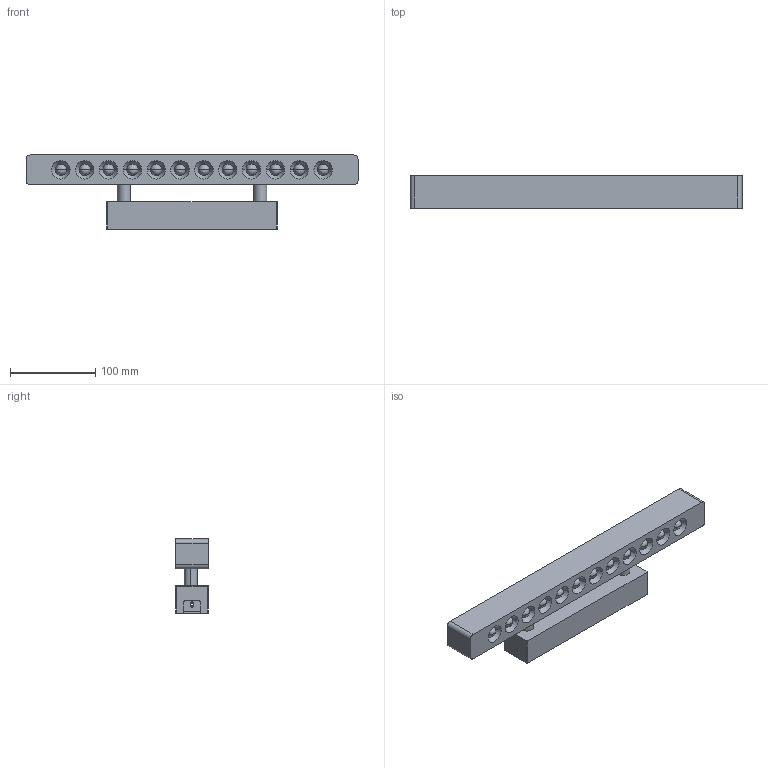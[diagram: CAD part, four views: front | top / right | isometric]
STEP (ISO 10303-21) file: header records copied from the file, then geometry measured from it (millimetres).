
FILE_DESCRIPTION((''),'2;1');
FILE_NAME('HTM-D_ASM_2_ASM','2026-06-02T',('叶琼'),(''),'PRO/ENGINEER BY PARAMETRIC TECHNOLOGY CORPORATION, 2012300','PRO/ENGINEER BY PARAMETRIC TECHNOLOGY CORPORATION, 2012300','');
FILE_SCHEMA(('CONFIG_CONTROL_DESIGN'));
Length unit declared in the file: millimetre
Products named in the file (13): HTM-D_3; B1_6; DK_4; BIDENG-D_ASM_3_ASM; NEIK_4; TOUJ-D_4; BIDENG-X_ASM_3_ASM; MUG_2; DIANYUANH_2; BD-DYH_ASM_2_ASM; ZHIJIA-1_2; 006_2; HTM-D_ASM_2_ASM
Assembly tree (36 placements, depth 3):
  HTM-D_ASM_2_ASM
    HTM-D_3
    BIDENG-D_ASM_3_ASM
      B1_6
      DK_4  x12
    NEIK_4
    BIDENG-X_ASM_3_ASM
      B1_6
      TOUJ-D_4  x12
    MUG_2
    BD-DYH_ASM_2_ASM
      DIANYUANH_2
    ZHIJIA-1_2  x2
    006_2
Bounding box: 390 x 38 x 87 mm (x, y, z)
Volume: 394051.7 mm3; surface area: 257329.4 mm2
Topology: 33 solids, 33 shells, 604 faces, 1384 edges, 888 vertices
Faces by surface type: cylinder 308, plane 200, cone 48, revolution 48
Entity records: 10931 total; most frequent: DIRECTION 2054, CARTESIAN_POINT 1840, ORIENTED_EDGE 1668, EDGE_CURVE 834, AXIS2_PLACEMENT_3D 818, VERTEX_POINT 546, EDGE_LOOP 460, CIRCLE 416
